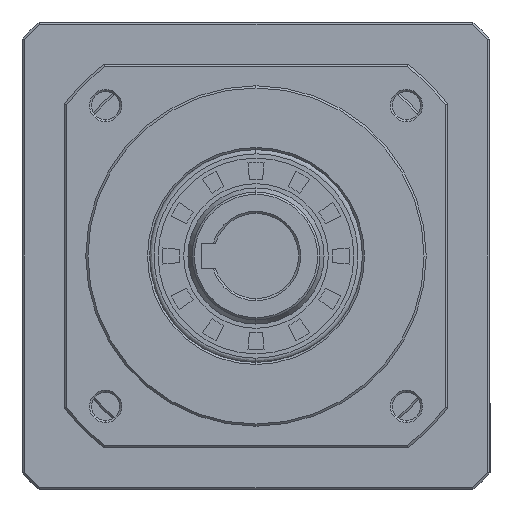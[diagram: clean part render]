
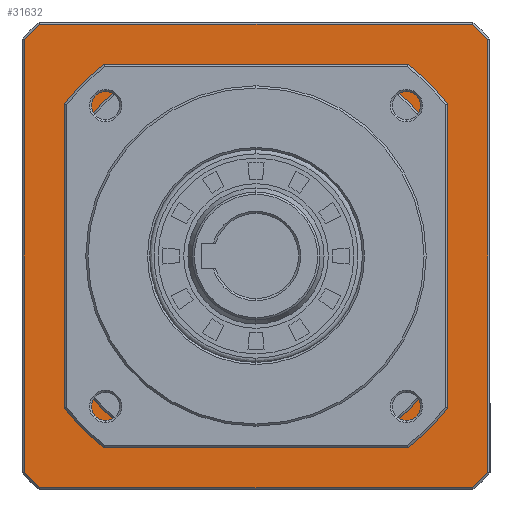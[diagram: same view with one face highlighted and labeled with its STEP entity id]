
A CAD part, left-side view. The second image highlights one B-rep face of the part: STEP entity #31632.
In plain terms, the highlighted planar face has unit normal (-1, 0, 0).
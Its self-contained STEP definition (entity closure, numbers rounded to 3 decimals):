
#424 = ORIENTED_EDGE ( 'NONE', *, *, #23179, .T. ) ;
#1648 = AXIS2_PLACEMENT_3D ( 'NONE', #73590, #80439, #87277 ) ;
#2041 = ORIENTED_EDGE ( 'NONE', *, *, #13563, .F. ) ;
#2468 = CIRCLE ( 'NONE', #73047, 50.5 ) ;
#2469 = CIRCLE ( 'NONE', #1648, 50.5 ) ;
#2921 = CARTESIAN_POINT ( 'NONE',  ( 88.5, 23.875, -44.5 ) ) ;
#3189 = VERTEX_POINT ( 'NONE', #32789 ) ;
#5749 = ORIENTED_EDGE ( 'NONE', *, *, #6223, .T. ) ;
#6223 = EDGE_CURVE ( 'NONE', #3189, #61040, #28599, .T. ) ;
#7026 = PLANE ( 'NONE',  #87624 ) ;
#8987 = EDGE_CURVE ( 'NONE', #79030, #38607, #82533, .T. ) ;
#9360 = EDGE_CURVE ( 'NONE', #83965, #47809, #85814, .T. ) ;
#9529 = CARTESIAN_POINT ( 'NONE',  ( 88.5, 50.794, 54.5 ) ) ;
#10226 = CARTESIAN_POINT ( 'NONE',  ( 88.5, 44.5, 23.875 ) ) ;
#10800 = LINE ( 'NONE', #61778, #27820 ) ;
#11509 = LINE ( 'NONE', #37029, #35935 ) ;
#12437 = CIRCLE ( 'NONE', #37075, 74.5 ) ;
#12633 = CIRCLE ( 'NONE', #73418, 74.5 ) ;
#12939 = CARTESIAN_POINT ( 'NONE',  ( 88.5, -54.5, -50.794 ) ) ;
#13563 = EDGE_CURVE ( 'NONE', #33212, #75354, #2468, .T. ) ;
#13660 = AXIS2_PLACEMENT_3D ( 'NONE', #50445, #84355, #58169 ) ;
#13808 = ORIENTED_EDGE ( 'NONE', *, *, #20593, .T. ) ;
#13915 = DIRECTION ( 'NONE',  ( -1., 0., 0. ) ) ;
#14517 = CARTESIAN_POINT ( 'NONE',  ( 88.5, 0., 0. ) ) ;
#14931 = CARTESIAN_POINT ( 'NONE',  ( 88.5, 44.5, 0. ) ) ;
#15016 = CARTESIAN_POINT ( 'NONE',  ( 88.5, 54.5, -50.794 ) ) ;
#15050 = VECTOR ( 'NONE', #42798, 1000. ) ;
#15317 = DIRECTION ( 'NONE',  ( 0., 0., -1. ) ) ;
#15388 = DIRECTION ( 'NONE',  ( 1., 0., 0. ) ) ;
#15913 = DIRECTION ( 'NONE',  ( -1., 0., 0. ) ) ;
#17109 = DIRECTION ( 'NONE',  ( 0., 0., -1. ) ) ;
#17650 = VERTEX_POINT ( 'NONE', #15016 ) ;
#19228 = DIRECTION ( 'NONE',  ( 1., 0., 0. ) ) ;
#19820 = VERTEX_POINT ( 'NONE', #20476 ) ;
#20476 = CARTESIAN_POINT ( 'NONE',  ( 88.5, 44.5, -23.875 ) ) ;
#20593 = EDGE_CURVE ( 'NONE', #76351, #17650, #10800, .T. ) ;
#21132 = CARTESIAN_POINT ( 'NONE',  ( 88.5, -44.5, 0. ) ) ;
#21213 = ORIENTED_EDGE ( 'NONE', *, *, #33744, .F. ) ;
#21333 = DIRECTION ( 'NONE',  ( 0., 0., -1. ) ) ;
#21838 = ORIENTED_EDGE ( 'NONE', *, *, #58556, .T. ) ;
#22336 = DIRECTION ( 'NONE',  ( 0., 0., -1. ) ) ;
#23179 = EDGE_CURVE ( 'NONE', #77622, #76351, #12437, .T. ) ;
#24848 = DIRECTION ( 'NONE',  ( 0., 0., 1. ) ) ;
#25132 = LINE ( 'NONE', #80191, #44306 ) ;
#25802 = CARTESIAN_POINT ( 'NONE',  ( 88.5, -54.5, 50.794 ) ) ;
#26406 = DIRECTION ( 'NONE',  ( 0., -1., 0. ) ) ;
#26687 = EDGE_CURVE ( 'NONE', #79030, #19820, #83575, .T. ) ;
#27383 = CARTESIAN_POINT ( 'NONE',  ( 88.5, -44.5, -23.875 ) ) ;
#27396 = DIRECTION ( 'NONE',  ( 0., 1., 0. ) ) ;
#27820 = VECTOR ( 'NONE', #41512, 1000. ) ;
#28367 = CARTESIAN_POINT ( 'NONE',  ( 88.5, 0., 0. ) ) ;
#28599 = CIRCLE ( 'NONE', #34161, 50.5 ) ;
#31632 = ADVANCED_FACE ( 'NONE', ( #46740, #40307 ), #7026, .F. ) ;
#31960 = EDGE_CURVE ( 'NONE', #50317, #83965, #12633, .T. ) ;
#32789 = CARTESIAN_POINT ( 'NONE',  ( 88.5, -23.875, 44.5 ) ) ;
#33212 = VERTEX_POINT ( 'NONE', #87866 ) ;
#33744 = EDGE_CURVE ( 'NONE', #75354, #61040, #49071, .T. ) ;
#34161 = AXIS2_PLACEMENT_3D ( 'NONE', #56101, #15388, #51331 ) ;
#35935 = VECTOR ( 'NONE', #44483, 1000. ) ;
#37029 = CARTESIAN_POINT ( 'NONE',  ( 88.5, 0., -44.5 ) ) ;
#37075 = AXIS2_PLACEMENT_3D ( 'NONE', #49521, #63191, #43527 ) ;
#37290 = EDGE_CURVE ( 'NONE', #3189, #38607, #25132, .T. ) ;
#38607 = VERTEX_POINT ( 'NONE', #48709 ) ;
#40046 = ORIENTED_EDGE ( 'NONE', *, *, #67305, .T. ) ;
#40307 = FACE_OUTER_BOUND ( 'NONE', #61175, .T. ) ;
#40687 = ORIENTED_EDGE ( 'NONE', *, *, #37290, .F. ) ;
#41512 = DIRECTION ( 'NONE',  ( 0., 0., -1. ) ) ;
#42399 = CIRCLE ( 'NONE', #71713, 74.5 ) ;
#42798 = DIRECTION ( 'NONE',  ( 0., 0., 1. ) ) ;
#43527 = DIRECTION ( 'NONE',  ( 0., 0., -1. ) ) ;
#44306 = VECTOR ( 'NONE', #54018, 1000. ) ;
#44483 = DIRECTION ( 'NONE',  ( 0., -1., 0. ) ) ;
#45310 = CARTESIAN_POINT ( 'NONE',  ( 88.5, 0., 0. ) ) ;
#46244 = VECTOR ( 'NONE', #26406, 1000. ) ;
#46586 = DIRECTION ( 'NONE',  ( 0., 0., -1. ) ) ;
#46740 = FACE_BOUND ( 'NONE', #66848, .T. ) ;
#46817 = CARTESIAN_POINT ( 'NONE',  ( 88.5, -54.5, 0. ) ) ;
#47332 = AXIS2_PLACEMENT_3D ( 'NONE', #14517, #13915, #21333 ) ;
#47809 = VERTEX_POINT ( 'NONE', #25802 ) ;
#48709 = CARTESIAN_POINT ( 'NONE',  ( 88.5, 23.875, 44.5 ) ) ;
#49071 = LINE ( 'NONE', #21132, #15050 ) ;
#49116 = ORIENTED_EDGE ( 'NONE', *, *, #70443, .T. ) ;
#49521 = CARTESIAN_POINT ( 'NONE',  ( 88.5, 0., 0. ) ) ;
#50317 = VERTEX_POINT ( 'NONE', #54392 ) ;
#50445 = CARTESIAN_POINT ( 'NONE',  ( 88.5, 0., 0. ) ) ;
#51322 = ORIENTED_EDGE ( 'NONE', *, *, #26687, .F. ) ;
#51331 = DIRECTION ( 'NONE',  ( 0., 0., 1. ) ) ;
#51522 = ORIENTED_EDGE ( 'NONE', *, *, #81340, .T. ) ;
#51756 = VECTOR ( 'NONE', #61377, 1000. ) ;
#52503 = DIRECTION ( 'NONE',  ( -1., 0., 0. ) ) ;
#53818 = VERTEX_POINT ( 'NONE', #2921 ) ;
#53900 = EDGE_CURVE ( 'NONE', #17650, #72442, #42399, .T. ) ;
#54018 = DIRECTION ( 'NONE',  ( 0., 1., 0. ) ) ;
#54392 = CARTESIAN_POINT ( 'NONE',  ( 88.5, -50.794, -54.5 ) ) ;
#55105 = VERTEX_POINT ( 'NONE', #67060 ) ;
#55165 = ORIENTED_EDGE ( 'NONE', *, *, #8987, .T. ) ;
#56101 = CARTESIAN_POINT ( 'NONE',  ( 88.5, 0., 0. ) ) ;
#57481 = ORIENTED_EDGE ( 'NONE', *, *, #31960, .T. ) ;
#57798 = DIRECTION ( 'NONE',  ( -1., 0., 0. ) ) ;
#57857 = CARTESIAN_POINT ( 'NONE',  ( 88.5, 0., 54.5 ) ) ;
#58169 = DIRECTION ( 'NONE',  ( 0., 0., 1. ) ) ;
#58556 = EDGE_CURVE ( 'NONE', #72442, #50317, #84584, .T. ) ;
#61040 = VERTEX_POINT ( 'NONE', #67896 ) ;
#61175 = EDGE_LOOP ( 'NONE', ( #67927, #21838, #57481, #76516, #40046, #49116, #424, #13808 ) ) ;
#61342 = VECTOR ( 'NONE', #27396, 1000. ) ;
#61377 = DIRECTION ( 'NONE',  ( 0., 0., 1. ) ) ;
#61778 = CARTESIAN_POINT ( 'NONE',  ( 88.5, 54.5, 0. ) ) ;
#63191 = DIRECTION ( 'NONE',  ( -1., 0., 0. ) ) ;
#63396 = CIRCLE ( 'NONE', #47332, 74.5 ) ;
#64193 = ORIENTED_EDGE ( 'NONE', *, *, #65550, .F. ) ;
#65025 = CARTESIAN_POINT ( 'NONE',  ( 88.5, 0., 0. ) ) ;
#65550 = EDGE_CURVE ( 'NONE', #53818, #33212, #11509, .T. ) ;
#66848 = EDGE_LOOP ( 'NONE', ( #51522, #51322, #55165, #40687, #5749, #21213, #2041, #64193 ) ) ;
#67060 = CARTESIAN_POINT ( 'NONE',  ( 88.5, -50.794, 54.5 ) ) ;
#67305 = EDGE_CURVE ( 'NONE', #47809, #55105, #63396, .T. ) ;
#67896 = CARTESIAN_POINT ( 'NONE',  ( 88.5, -44.5, 23.875 ) ) ;
#67927 = ORIENTED_EDGE ( 'NONE', *, *, #53900, .T. ) ;
#68124 = CARTESIAN_POINT ( 'NONE',  ( 88.5, 54.5, 50.794 ) ) ;
#68413 = CARTESIAN_POINT ( 'NONE',  ( 88.5, 50.794, -54.5 ) ) ;
#70443 = EDGE_CURVE ( 'NONE', #55105, #77622, #80468, .T. ) ;
#71713 = AXIS2_PLACEMENT_3D ( 'NONE', #28367, #15913, #15317 ) ;
#72442 = VERTEX_POINT ( 'NONE', #68413 ) ;
#73047 = AXIS2_PLACEMENT_3D ( 'NONE', #65025, #52503, #24848 ) ;
#73418 = AXIS2_PLACEMENT_3D ( 'NONE', #45310, #57798, #17109 ) ;
#73590 = CARTESIAN_POINT ( 'NONE',  ( 88.5, 0., 0. ) ) ;
#74575 = CARTESIAN_POINT ( 'NONE',  ( 88.5, 0., -54.5 ) ) ;
#75354 = VERTEX_POINT ( 'NONE', #27383 ) ;
#76351 = VERTEX_POINT ( 'NONE', #68124 ) ;
#76516 = ORIENTED_EDGE ( 'NONE', *, *, #9360, .T. ) ;
#77622 = VERTEX_POINT ( 'NONE', #9529 ) ;
#79030 = VERTEX_POINT ( 'NONE', #10226 ) ;
#80191 = CARTESIAN_POINT ( 'NONE',  ( 88.5, 0., 44.5 ) ) ;
#80439 = DIRECTION ( 'NONE',  ( 1., 0., 0. ) ) ;
#80468 = LINE ( 'NONE', #57857, #61342 ) ;
#81340 = EDGE_CURVE ( 'NONE', #53818, #19820, #2469, .T. ) ;
#82533 = CIRCLE ( 'NONE', #13660, 50.5 ) ;
#83575 = LINE ( 'NONE', #14931, #86820 ) ;
#83965 = VERTEX_POINT ( 'NONE', #12939 ) ;
#84355 = DIRECTION ( 'NONE',  ( 1., 0., 0. ) ) ;
#84584 = LINE ( 'NONE', #74575, #46244 ) ;
#85814 = LINE ( 'NONE', #46817, #51756 ) ;
#86820 = VECTOR ( 'NONE', #22336, 1000. ) ;
#87277 = DIRECTION ( 'NONE',  ( 0., 0., 1. ) ) ;
#87624 = AXIS2_PLACEMENT_3D ( 'NONE', #87907, #19228, #46586 ) ;
#87866 = CARTESIAN_POINT ( 'NONE',  ( 88.5, -23.875, -44.5 ) ) ;
#87907 = CARTESIAN_POINT ( 'NONE',  ( 88.5, -54.5, 54.5 ) ) ;
